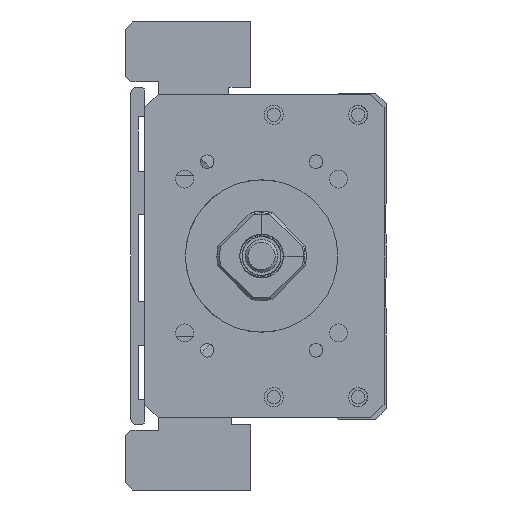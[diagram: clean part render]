
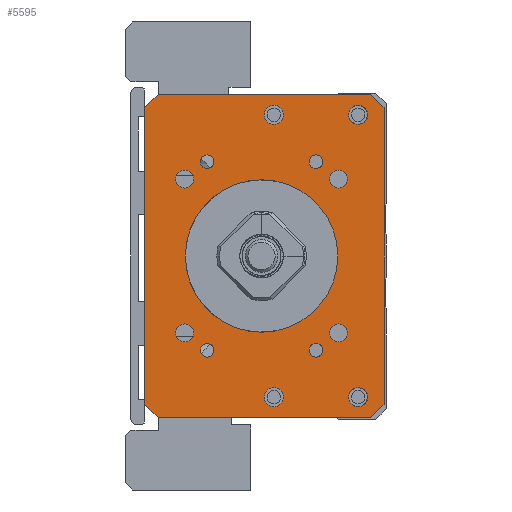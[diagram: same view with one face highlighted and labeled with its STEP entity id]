
A CAD part, left-side view. The second image highlights one B-rep face of the part: STEP entity #5595.
In plain terms, the highlighted planar face has unit normal (-1, 0, 0).
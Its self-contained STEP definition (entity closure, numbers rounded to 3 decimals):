
#4577=FACE_BOUND('',#7340,.T.);
#4578=FACE_BOUND('',#7341,.T.);
#4579=FACE_BOUND('',#7342,.T.);
#4580=FACE_BOUND('',#7343,.T.);
#4581=FACE_BOUND('',#7344,.T.);
#4582=FACE_BOUND('',#7345,.T.);
#4583=FACE_BOUND('',#7346,.T.);
#4584=FACE_BOUND('',#7347,.T.);
#4585=FACE_BOUND('',#7348,.T.);
#4586=FACE_BOUND('',#7349,.T.);
#4587=FACE_BOUND('',#7350,.T.);
#4588=FACE_BOUND('',#7351,.T.);
#4589=FACE_BOUND('',#7352,.T.);
#4590=FACE_BOUND('',#7353,.T.);
#4996=CIRCLE('',#16056,14.);
#5005=CIRCLE('',#16067,1.65);
#5006=CIRCLE('',#16068,1.65);
#5007=CIRCLE('',#16069,1.65);
#5008=CIRCLE('',#16070,1.65);
#5009=CIRCLE('',#16071,1.25);
#5010=CIRCLE('',#16072,1.75);
#5011=CIRCLE('',#16073,1.25);
#5012=CIRCLE('',#16074,1.75);
#5013=CIRCLE('',#16075,1.25);
#5014=CIRCLE('',#16076,1.75);
#5015=CIRCLE('',#16077,1.75);
#5016=CIRCLE('',#16078,1.25);
#5595=ADVANCED_FACE('',(#4577,#4578,#4579,#4580,#4581,#4582,#4583,#4584,
#4585,#4586,#4587,#4588,#4589,#4590),#6174,.F.);
#6174=PLANE('',#16079);
#7340=EDGE_LOOP('',(#9555));
#7341=EDGE_LOOP('',(#9556));
#7342=EDGE_LOOP('',(#9557));
#7343=EDGE_LOOP('',(#9558));
#7344=EDGE_LOOP('',(#9559));
#7345=EDGE_LOOP('',(#9560));
#7346=EDGE_LOOP('',(#9561));
#7347=EDGE_LOOP('',(#9562));
#7348=EDGE_LOOP('',(#9563));
#7349=EDGE_LOOP('',(#9564,#9565,#9566,#9567,#9568,#9569,#9570,#9571));
#7350=EDGE_LOOP('',(#9572));
#7351=EDGE_LOOP('',(#9573));
#7352=EDGE_LOOP('',(#9574));
#7353=EDGE_LOOP('',(#9575));
#9555=ORIENTED_EDGE('',*,*,#12896,.F.);
#9556=ORIENTED_EDGE('',*,*,#12897,.F.);
#9557=ORIENTED_EDGE('',*,*,#12898,.F.);
#9558=ORIENTED_EDGE('',*,*,#12899,.F.);
#9559=ORIENTED_EDGE('',*,*,#12900,.F.);
#9560=ORIENTED_EDGE('',*,*,#12901,.T.);
#9561=ORIENTED_EDGE('',*,*,#12902,.F.);
#9562=ORIENTED_EDGE('',*,*,#12903,.F.);
#9563=ORIENTED_EDGE('',*,*,#12904,.F.);
#9564=ORIENTED_EDGE('',*,*,#12893,.T.);
#9565=ORIENTED_EDGE('',*,*,#12905,.T.);
#9566=ORIENTED_EDGE('',*,*,#12906,.F.);
#9567=ORIENTED_EDGE('',*,*,#12907,.T.);
#9568=ORIENTED_EDGE('',*,*,#12908,.F.);
#9569=ORIENTED_EDGE('',*,*,#12909,.T.);
#9570=ORIENTED_EDGE('',*,*,#12910,.T.);
#9571=ORIENTED_EDGE('',*,*,#12911,.T.);
#9572=ORIENTED_EDGE('',*,*,#12912,.F.);
#9573=ORIENTED_EDGE('',*,*,#12913,.F.);
#9574=ORIENTED_EDGE('',*,*,#12914,.F.);
#9575=ORIENTED_EDGE('',*,*,#12873,.F.);
#11535=VERTEX_POINT('',#22306);
#11555=VERTEX_POINT('',#22366);
#11556=VERTEX_POINT('',#22368);
#11558=VERTEX_POINT('',#22374);
#11559=VERTEX_POINT('',#22376);
#11560=VERTEX_POINT('',#22378);
#11561=VERTEX_POINT('',#22380);
#11562=VERTEX_POINT('',#22382);
#11563=VERTEX_POINT('',#22384);
#11564=VERTEX_POINT('',#22386);
#11565=VERTEX_POINT('',#22388);
#11566=VERTEX_POINT('',#22390);
#11567=VERTEX_POINT('',#22392);
#11568=VERTEX_POINT('',#22394);
#11569=VERTEX_POINT('',#22396);
#11570=VERTEX_POINT('',#22398);
#11571=VERTEX_POINT('',#22400);
#11572=VERTEX_POINT('',#22402);
#11573=VERTEX_POINT('',#22405);
#11574=VERTEX_POINT('',#22407);
#11575=VERTEX_POINT('',#22409);
#12873=EDGE_CURVE('',#11535,#11535,#4996,.T.);
#12893=EDGE_CURVE('',#11556,#11555,#14191,.T.);
#12896=EDGE_CURVE('',#11558,#11558,#5005,.T.);
#12897=EDGE_CURVE('',#11559,#11559,#5006,.T.);
#12898=EDGE_CURVE('',#11560,#11560,#5007,.T.);
#12899=EDGE_CURVE('',#11561,#11561,#5008,.T.);
#12900=EDGE_CURVE('',#11562,#11562,#5009,.T.);
#12901=EDGE_CURVE('',#11563,#11563,#5010,.T.);
#12902=EDGE_CURVE('',#11564,#11564,#5011,.T.);
#12903=EDGE_CURVE('',#11565,#11565,#5012,.T.);
#12904=EDGE_CURVE('',#11566,#11566,#5013,.T.);
#12905=EDGE_CURVE('',#11555,#11567,#14193,.T.);
#12906=EDGE_CURVE('',#11568,#11567,#14194,.T.);
#12907=EDGE_CURVE('',#11568,#11569,#14195,.T.);
#12908=EDGE_CURVE('',#11570,#11569,#14196,.T.);
#12909=EDGE_CURVE('',#11570,#11571,#14197,.T.);
#12910=EDGE_CURVE('',#11571,#11572,#14198,.T.);
#12911=EDGE_CURVE('',#11572,#11556,#14199,.T.);
#12912=EDGE_CURVE('',#11573,#11573,#5014,.T.);
#12913=EDGE_CURVE('',#11574,#11574,#5015,.T.);
#12914=EDGE_CURVE('',#11575,#11575,#5016,.T.);
#14191=LINE('',#22367,#15144);
#14193=LINE('',#22391,#15146);
#14194=LINE('',#22393,#15147);
#14195=LINE('',#22395,#15148);
#14196=LINE('',#22397,#15149);
#14197=LINE('',#22399,#15150);
#14198=LINE('',#22401,#15151);
#14199=LINE('',#22403,#15152);
#15144=VECTOR('',#18401,1.);
#15146=VECTOR('',#18425,1.);
#15147=VECTOR('',#18426,1.);
#15148=VECTOR('',#18427,1.);
#15149=VECTOR('',#18428,1.);
#15150=VECTOR('',#18429,1.);
#15151=VECTOR('',#18430,1.);
#15152=VECTOR('',#18431,1.);
#16056=AXIS2_PLACEMENT_3D('',#22305,#18375,#18376);
#16067=AXIS2_PLACEMENT_3D('',#22373,#18407,#18408);
#16068=AXIS2_PLACEMENT_3D('',#22375,#18409,#18410);
#16069=AXIS2_PLACEMENT_3D('',#22377,#18411,#18412);
#16070=AXIS2_PLACEMENT_3D('',#22379,#18413,#18414);
#16071=AXIS2_PLACEMENT_3D('',#22381,#18415,#18416);
#16072=AXIS2_PLACEMENT_3D('',#22383,#18417,#18418);
#16073=AXIS2_PLACEMENT_3D('',#22385,#18419,#18420);
#16074=AXIS2_PLACEMENT_3D('',#22387,#18421,#18422);
#16075=AXIS2_PLACEMENT_3D('',#22389,#18423,#18424);
#16076=AXIS2_PLACEMENT_3D('',#22404,#18432,#18433);
#16077=AXIS2_PLACEMENT_3D('',#22406,#18434,#18435);
#16078=AXIS2_PLACEMENT_3D('',#22408,#18436,#18437);
#16079=AXIS2_PLACEMENT_3D('',#22410,#18438,#18439);
#18375=DIRECTION('',(-1.,0.,0.));
#18376=DIRECTION('',(0.,1.,0.));
#18401=DIRECTION('',(0.,0.,-1.));
#18407=DIRECTION('',(-1.,0.,0.));
#18408=DIRECTION('',(0.,0.,1.));
#18409=DIRECTION('',(-1.,0.,0.));
#18410=DIRECTION('',(0.,0.,1.));
#18411=DIRECTION('',(-1.,0.,0.));
#18412=DIRECTION('',(0.,0.,1.));
#18413=DIRECTION('',(-1.,0.,0.));
#18414=DIRECTION('',(0.,0.,1.));
#18415=DIRECTION('',(-1.,0.,0.));
#18416=DIRECTION('',(0.,1.,0.));
#18417=DIRECTION('',(1.,0.,0.));
#18418=DIRECTION('',(0.,0.,1.));
#18419=DIRECTION('',(-1.,0.,0.));
#18420=DIRECTION('',(0.,1.,0.));
#18421=DIRECTION('',(-1.,0.,0.));
#18422=DIRECTION('',(0.,0.,1.));
#18423=DIRECTION('',(-1.,0.,0.));
#18424=DIRECTION('',(0.,1.,0.));
#18425=DIRECTION('',(0.,-0.707,-0.707));
#18426=DIRECTION('',(0.,1.,0.));
#18427=DIRECTION('',(0.,-0.707,0.707));
#18428=DIRECTION('',(0.,0.,-1.));
#18429=DIRECTION('',(0.,0.707,0.707));
#18430=DIRECTION('',(0.,1.,0.));
#18431=DIRECTION('',(0.,0.707,-0.707));
#18432=DIRECTION('',(-1.,0.,0.));
#18433=DIRECTION('',(0.,0.,1.));
#18434=DIRECTION('',(-1.,0.,0.));
#18435=DIRECTION('',(0.,0.,1.));
#18436=DIRECTION('',(-1.,0.,0.));
#18437=DIRECTION('',(0.,1.,0.));
#18438=DIRECTION('',(1.,0.,0.));
#18439=DIRECTION('',(0.,1.,0.));
#22305=CARTESIAN_POINT('',(-211.,0.,-100.));
#22306=CARTESIAN_POINT('',(-211.,14.,-100.));
#22366=CARTESIAN_POINT('',(-211.,21.499,-127.25));
#22367=CARTESIAN_POINT('',(-211.,21.499,-70.25));
#22368=CARTESIAN_POINT('',(-211.,21.499,-72.75));
#22373=CARTESIAN_POINT('',(-211.,14.142,-85.858));
#22374=CARTESIAN_POINT('',(-211.,14.142,-84.208));
#22375=CARTESIAN_POINT('',(-211.,-14.142,-85.858));
#22376=CARTESIAN_POINT('',(-211.,-14.142,-84.208));
#22377=CARTESIAN_POINT('',(-211.,14.142,-114.142));
#22378=CARTESIAN_POINT('',(-211.,14.142,-112.492));
#22379=CARTESIAN_POINT('',(-211.,-14.142,-114.142));
#22380=CARTESIAN_POINT('',(-211.,-14.142,-112.492));
#22381=CARTESIAN_POINT('',(-211.,-10.,-117.321));
#22382=CARTESIAN_POINT('',(-211.,-8.75,-117.321));
#22383=CARTESIAN_POINT('',(-211.,-2.25,-125.936));
#22384=CARTESIAN_POINT('',(-211.,-2.25,-124.186));
#22385=CARTESIAN_POINT('',(-211.,10.,-82.679));
#22386=CARTESIAN_POINT('',(-211.,11.25,-82.679));
#22387=CARTESIAN_POINT('',(-211.,-2.25,-74.064));
#22388=CARTESIAN_POINT('',(-211.,-2.25,-72.314));
#22389=CARTESIAN_POINT('',(-211.,10.,-117.321));
#22390=CARTESIAN_POINT('',(-211.,11.25,-117.321));
#22391=CARTESIAN_POINT('',(-211.,18.999,-129.75));
#22392=CARTESIAN_POINT('',(-211.,18.999,-129.75));
#22393=CARTESIAN_POINT('',(-211.,-22.501,-129.75));
#22394=CARTESIAN_POINT('',(-211.,-20.001,-129.75));
#22395=CARTESIAN_POINT('',(-211.,-22.501,-127.25));
#22396=CARTESIAN_POINT('',(-211.,-22.501,-127.25));
#22397=CARTESIAN_POINT('',(-211.,-22.501,-70.25));
#22398=CARTESIAN_POINT('',(-211.,-22.501,-72.75));
#22399=CARTESIAN_POINT('',(-211.,-22.501,-72.75));
#22400=CARTESIAN_POINT('',(-211.,-20.001,-70.25));
#22401=CARTESIAN_POINT('',(-211.,-22.501,-70.25));
#22402=CARTESIAN_POINT('',(-211.,18.999,-70.25));
#22403=CARTESIAN_POINT('',(-211.,18.999,-70.25));
#22404=CARTESIAN_POINT('',(-211.,-17.75,-74.064));
#22405=CARTESIAN_POINT('',(-211.,-17.75,-72.314));
#22406=CARTESIAN_POINT('',(-211.,-17.75,-125.936));
#22407=CARTESIAN_POINT('',(-211.,-17.75,-124.186));
#22408=CARTESIAN_POINT('',(-211.,-10.,-82.679));
#22409=CARTESIAN_POINT('',(-211.,-8.75,-82.679));
#22410=CARTESIAN_POINT('',(-211.,-22.501,-70.25));
